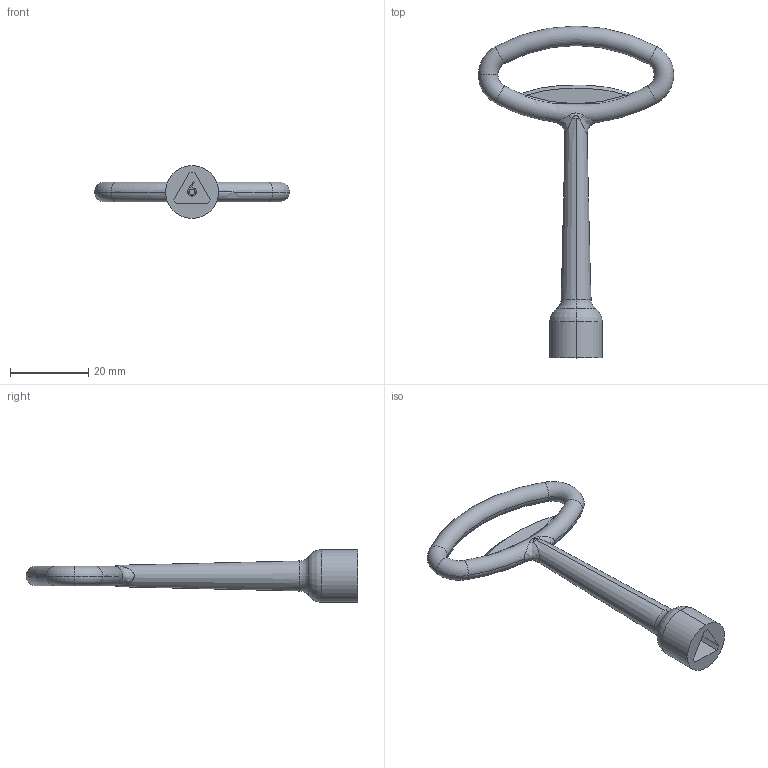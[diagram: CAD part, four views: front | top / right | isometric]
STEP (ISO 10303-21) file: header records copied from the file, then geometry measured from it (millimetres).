
FILE_DESCRIPTION (( 'STEP AP214' ), '1' );
FILE_NAME ('2.KL.A.T9.001.STEP', '2016-08-31T11:17:02', ( '' ), ( '' ), 'SwSTEP 2.0', 'SolidWorks 2015', '' );
FILE_SCHEMA (( 'AUTOMOTIVE_DESIGN' ));
Length unit declared in the file: millimetre
Products named in the file (1): 2.KL.A.T9.001
Bounding box: 49.97 x 85 x 13.5 mm (x, y, z)
Volume: 5296.5 mm3; surface area: 3790.2 mm2
Topology: 1 solids, 1 shells, 62 faces, 165 edges, 104 vertices
Faces by surface type: bspline 24, torus 16, plane 13, cylinder 5, cone 2, sphere 2
Entity records: 3776 total; most frequent: CARTESIAN_POINT 2379, ORIENTED_EDGE 330, DIRECTION 226, EDGE_CURVE 165, VERTEX_POINT 104, AXIS2_PLACEMENT_3D 96, B_SPLINE_CURVE_WITH_KNOTS 72, EDGE_LOOP 65
